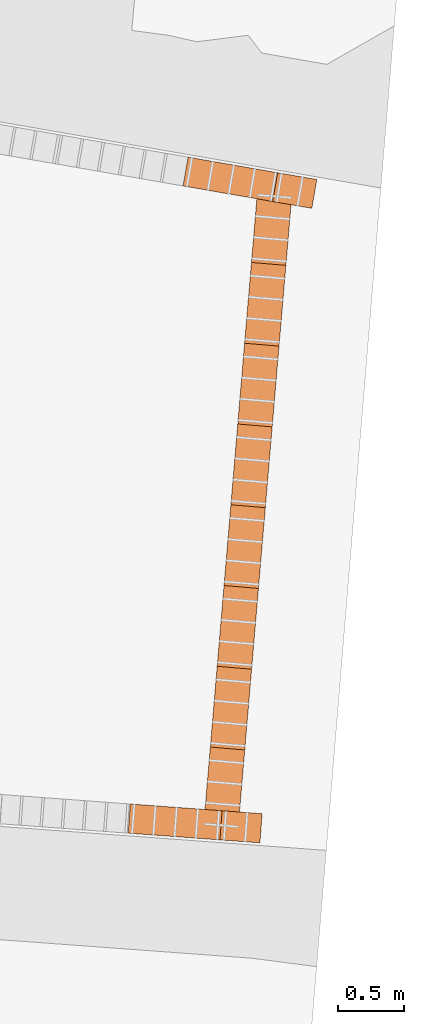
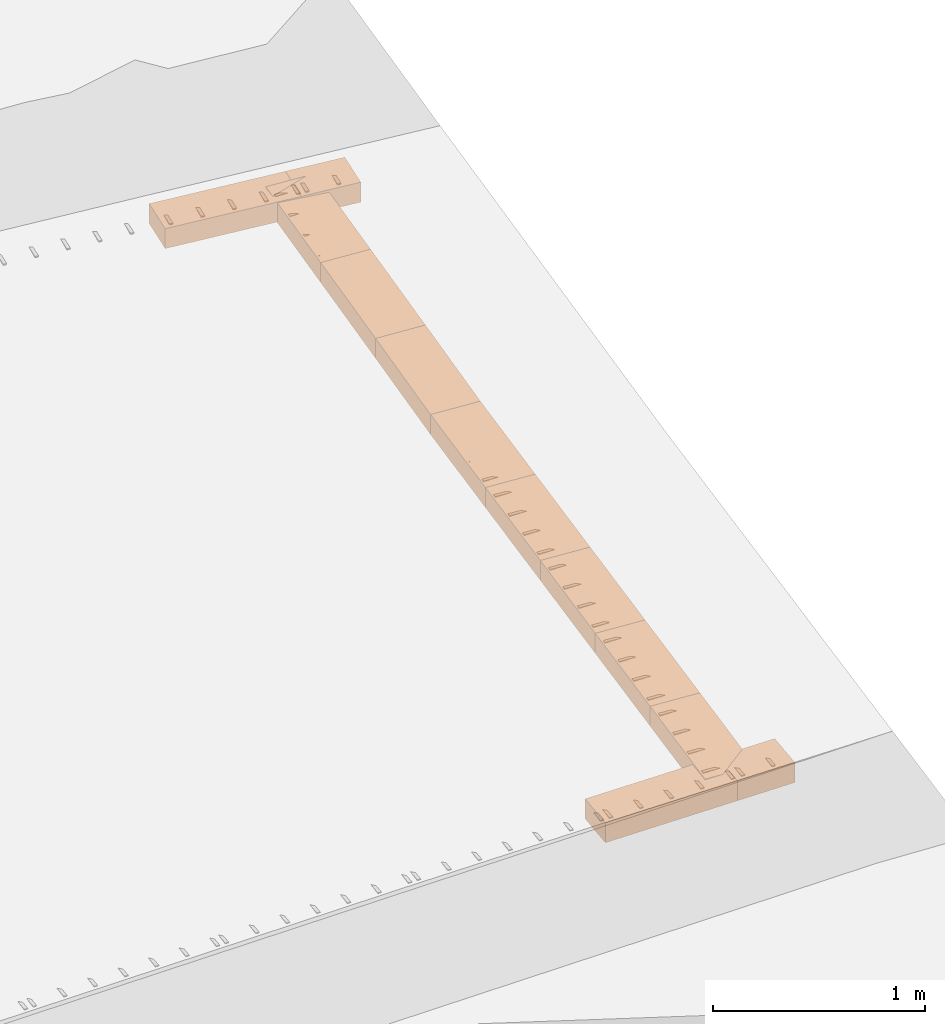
# Not in any storey, part 33 of 33: 12 proxies.
"""IFC4 model written with IfcOpenShell, lengths in metres."""

from ifc_helpers import new_model, si_unit, direction, frame, origin_with_axes, place, context, subcontext, project, spatial, polygons, material, element, save


model = new_model("IFC4")

# Units and contexts
model_context = context("Model", 3, precision=1e-05, world=origin_with_axes(), true_north=direction((0.0, 1.0)))
body_context = subcontext(model_context, "Body", "Model", "MODEL_VIEW")
ifc_project = project(units=[si_unit("LENGTHUNIT", "METRE"), si_unit("AREAUNIT", "SQUARE_METRE"), si_unit("VOLUMEUNIT", "CUBIC_METRE")], contexts=[model_context])

# Site
site_placement = place(None, origin_with_axes())
site = spatial("IfcSite", under=ifc_project, at=site_placement, Name="Lares · Rua das Mercês · artigo 4771")

# Proxies
ifc_material = material(Name="Brita drenante", Category="stone")
proxy_1_placement = place(site_placement, frame((0.0, 0.0, 0.0), z_axis=(0.0, 0.0, 1.0), x_axis=(1.0, -1.03767253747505e-17, 0.0)))
element("IfcBuildingElementProxy", 1, at=proxy_1_placement, inside=site, material=ifc_material, Name="Acesso · dreno lateral raso · leito drenante", ObjectType="Acesso · dreno lateral raso · leito drenante", PredefinedType="USERDEFINED", context=body_context, shape_type="Tessellation", body=[
    polygons([(81.7911042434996, 0.638094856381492, 15.9472141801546), (81.8072327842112, 0.857502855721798, 15.9472141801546), (82.497647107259, 0.806750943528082, 15.97844099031), (82.4815185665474, 0.587342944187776, 15.97844099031), (81.7911042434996, 0.638094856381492, 16.0622141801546), (81.8072327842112, 0.857502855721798, 16.0622141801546), (82.497647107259, 0.806750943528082, 16.09344099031), (82.4815185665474, 0.587342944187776, 16.09344099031)], [[[4, 3, 2, 1]], [[5, 6, 7, 8]], [[1, 2, 6, 5]], [[2, 3, 7, 6]], [[3, 4, 8, 7]], [[4, 1, 5, 8]]]),
])
proxy_2_placement = place(site_placement, frame((0.0, 0.0, 0.0), z_axis=(0.0, 0.0, 1.0), x_axis=(1.0, -1.03767253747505e-17, 0.0)))
element("IfcBuildingElementProxy", 2, at=proxy_2_placement, inside=site, material=ifc_material, Name="Acesso · dreno lateral raso · leito drenante", ObjectType="Acesso · dreno lateral raso · leito drenante", PredefinedType="USERDEFINED", context=body_context, shape_type="Tessellation", body=[
    polygons([(82.4815185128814, 0.587342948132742, 15.97844099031), (82.497647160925, 0.806750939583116, 15.97844099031), (82.7988218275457, 0.784611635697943, 15.9920628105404), (82.7826931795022, 0.565203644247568, 15.9920628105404), (82.4815185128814, 0.587342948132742, 16.09344099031), (82.497647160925, 0.806750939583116, 16.09344099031), (82.7988218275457, 0.784611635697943, 16.1070628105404), (82.7826931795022, 0.565203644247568, 16.1070628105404)], [[[4, 3, 2, 1]], [[5, 6, 7, 8]], [[1, 2, 6, 5]], [[2, 3, 7, 6]], [[3, 4, 8, 7]], [[4, 1, 5, 8]]]),
])
proxy_3_placement = place(site_placement, frame((0.0, 0.0, 0.0), z_axis=(0.0, 0.0, 1.0), x_axis=(1.0, -1.03767253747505e-17, 0.0)))
element("IfcBuildingElementProxy", 3, at=proxy_3_placement, inside=site, material=ifc_material, Name="Acesso · dreno lateral raso · leito drenante", ObjectType="Acesso · dreno lateral raso · leito drenante", PredefinedType="USERDEFINED", context=body_context, shape_type="Tessellation", body=[
    polygons([(82.2036088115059, 5.5071228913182, 16.2737932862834), (82.241255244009, 5.72387792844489, 16.2737932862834), (82.9159825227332, 5.60668999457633, 16.295060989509), (82.8783360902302, 5.38993495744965, 16.295060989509), (82.2036088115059, 5.5071228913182, 16.3887932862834), (82.241255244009, 5.72387792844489, 16.3887932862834), (82.9159825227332, 5.60668999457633, 16.410060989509), (82.8783360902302, 5.38993495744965, 16.410060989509)], [[[4, 3, 2, 1]], [[5, 6, 7, 8]], [[1, 2, 6, 5]], [[2, 3, 7, 6]], [[3, 4, 8, 7]], [[4, 1, 5, 8]]]),
])
proxy_4_placement = place(site_placement, frame((0.0, 0.0, 0.0), z_axis=(0.0, 0.0, 1.0), x_axis=(1.0, -1.03767253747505e-17, 0.0)))
element("IfcBuildingElementProxy", 4, at=proxy_4_placement, inside=site, material=ifc_material, Name="Acesso · dreno lateral raso · leito drenante", ObjectType="Acesso · dreno lateral raso · leito drenante", PredefinedType="USERDEFINED", context=body_context, shape_type="Tessellation", body=[
    polygons([(82.8783362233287, 5.38993493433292, 16.295060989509), (82.9159823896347, 5.60669001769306, 16.295060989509), (83.2103184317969, 5.55556953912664, 16.3043386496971), (83.1726722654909, 5.3388144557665, 16.3043386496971), (82.8783362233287, 5.38993493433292, 16.410060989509), (82.9159823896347, 5.60669001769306, 16.410060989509), (83.2103184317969, 5.55556953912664, 16.4193386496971), (83.1726722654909, 5.3388144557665, 16.4193386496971)], [[[4, 3, 2, 1]], [[5, 6, 7, 8]], [[1, 2, 6, 5]], [[2, 3, 7, 6]], [[3, 4, 8, 7]], [[4, 1, 5, 8]]]),
])
proxy_5_placement = place(site_placement, frame((0.0, 0.0, 0.0), z_axis=(0.0, 0.0, 1.0), x_axis=(1.0, -1.03767253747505e-17, 0.0)))
element("IfcBuildingElementProxy", 5, at=proxy_5_placement, inside=site, material=ifc_material, Name="Interceção · caleira rua · leito drenante", ObjectType="Interceção · caleira rua · leito drenante", PredefinedType="USERDEFINED", context=body_context, shape_type="Tessellation", body=[
    polygons([(82.6165793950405, 0.656158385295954, 15.9767944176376), (82.3575111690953, 0.678150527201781, 15.9767944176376), (82.4090926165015, 1.28578184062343, 16.0102646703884), (82.6681608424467, 1.2637896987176, 16.0102646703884), (82.6165793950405, 0.656158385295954, 16.0917944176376), (82.3575111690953, 0.678150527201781, 16.0917944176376), (82.4090926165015, 1.28578184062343, 16.1252646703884), (82.6681608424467, 1.2637896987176, 16.1252646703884)], [[[4, 3, 2, 1]], [[5, 6, 7, 8]], [[1, 2, 6, 5]], [[2, 3, 7, 6]], [[3, 4, 8, 7]], [[4, 1, 5, 8]]]),
])
proxy_6_placement = place(site_placement, frame((0.0, 0.0, 0.0), z_axis=(0.0, 0.0, 1.0), x_axis=(1.0, -1.03767253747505e-17, 0.0)))
element("IfcBuildingElementProxy", 6, at=proxy_6_placement, inside=site, material=ifc_material, Name="Interceção · caleira rua · leito drenante", ObjectType="Interceção · caleira rua · leito drenante", PredefinedType="USERDEFINED", context=body_context, shape_type="Tessellation", body=[
    polygons([(82.6681608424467, 1.2637896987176, 16.0102646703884), (82.4090926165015, 1.28578184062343, 16.0102646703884), (82.4606740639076, 1.89341315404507, 16.0437349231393), (82.7197422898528, 1.87142101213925, 16.0437349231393), (82.6681608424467, 1.2637896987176, 16.1252646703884), (82.4090926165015, 1.28578184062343, 16.1252646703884), (82.4606740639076, 1.89341315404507, 16.1587349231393), (82.7197422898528, 1.87142101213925, 16.1587349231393)], [[[4, 3, 2, 1]], [[5, 6, 7, 8]], [[1, 2, 6, 5]], [[2, 3, 7, 6]], [[3, 4, 8, 7]], [[4, 1, 5, 8]]]),
])
proxy_7_placement = place(site_placement, frame((0.0, 0.0, 0.0), z_axis=(0.0, 0.0, 1.0), x_axis=(1.0, -1.03767253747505e-17, 0.0)))
element("IfcBuildingElementProxy", 7, at=proxy_7_placement, inside=site, material=ifc_material, Name="Interceção · caleira rua · leito drenante", ObjectType="Interceção · caleira rua · leito drenante", PredefinedType="USERDEFINED", context=body_context, shape_type="Tessellation", body=[
    polygons([(82.7197422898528, 1.87142101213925, 16.0437349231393), (82.4606740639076, 1.89341315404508, 16.0437349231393), (82.5122555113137, 2.50104446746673, 16.0772051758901), (82.7713237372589, 2.4790523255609, 16.0772051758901), (82.7197422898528, 1.87142101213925, 16.1587349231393), (82.4606740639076, 1.89341315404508, 16.1587349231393), (82.5122555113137, 2.50104446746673, 16.1922051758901), (82.7713237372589, 2.4790523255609, 16.1922051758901)], [[[4, 3, 2, 1]], [[5, 6, 7, 8]], [[1, 2, 6, 5]], [[2, 3, 7, 6]], [[3, 4, 8, 7]], [[4, 1, 5, 8]]]),
])
proxy_8_placement = place(site_placement, frame((0.0, 0.0, 0.0), z_axis=(0.0, 0.0, 1.0), x_axis=(1.0, -1.03767253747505e-17, 0.0)))
element("IfcBuildingElementProxy", 8, at=proxy_8_placement, inside=site, material=ifc_material, Name="Interceção · caleira rua · leito drenante", ObjectType="Interceção · caleira rua · leito drenante", PredefinedType="USERDEFINED", context=body_context, shape_type="Tessellation", body=[
    polygons([(82.7713237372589, 2.4790523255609, 16.0772051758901), (82.5122555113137, 2.50104446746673, 16.0772051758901), (82.5638369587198, 3.10867578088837, 16.110675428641), (82.8229051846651, 3.08668363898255, 16.110675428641), (82.7713237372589, 2.4790523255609, 16.1922051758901), (82.5122555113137, 2.50104446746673, 16.1922051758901), (82.5638369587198, 3.10867578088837, 16.225675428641), (82.8229051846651, 3.08668363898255, 16.225675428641)], [[[4, 3, 2, 1]], [[5, 6, 7, 8]], [[1, 2, 6, 5]], [[2, 3, 7, 6]], [[3, 4, 8, 7]], [[4, 1, 5, 8]]]),
])
proxy_9_placement = place(site_placement, frame((0.0, 0.0, 0.0), z_axis=(0.0, 0.0, 1.0), x_axis=(1.0, -1.03767253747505e-17, 0.0)))
element("IfcBuildingElementProxy", 9, at=proxy_9_placement, inside=site, material=ifc_material, Name="Interceção · caleira rua · leito drenante", ObjectType="Interceção · caleira rua · leito drenante", PredefinedType="USERDEFINED", context=body_context, shape_type="Tessellation", body=[
    polygons([(82.8229051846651, 3.08668363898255, 16.110675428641), (82.5638369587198, 3.10867578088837, 16.110675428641), (82.615418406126, 3.71630709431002, 16.1447230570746), (82.8744866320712, 3.69431495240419, 16.1447230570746), (82.8229051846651, 3.08668363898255, 16.225675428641), (82.5638369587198, 3.10867578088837, 16.225675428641), (82.615418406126, 3.71630709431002, 16.2597230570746), (82.8744866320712, 3.69431495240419, 16.2597230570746)], [[[4, 3, 2, 1]], [[5, 6, 7, 8]], [[1, 2, 6, 5]], [[2, 3, 7, 6]], [[3, 4, 8, 7]], [[4, 1, 5, 8]]]),
])
proxy_10_placement = place(site_placement, frame((0.0, 0.0, 0.0), z_axis=(0.0, 0.0, 1.0), x_axis=(1.0, -1.03767253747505e-17, 0.0)))
element("IfcBuildingElementProxy", 10, at=proxy_10_placement, inside=site, material=ifc_material, Name="Interceção · caleira rua · leito drenante", ObjectType="Interceção · caleira rua · leito drenante", PredefinedType="USERDEFINED", context=body_context, shape_type="Tessellation", body=[
    polygons([(82.8744866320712, 3.69431495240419, 16.1447230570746), (82.615418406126, 3.71630709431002, 16.1447230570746), (82.6669998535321, 4.32393840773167, 16.1968991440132), (82.9260680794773, 4.30194626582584, 16.1968991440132), (82.8744866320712, 3.69431495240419, 16.2597230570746), (82.615418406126, 3.71630709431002, 16.2597230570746), (82.6669998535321, 4.32393840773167, 16.3118991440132), (82.9260680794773, 4.30194626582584, 16.3118991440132)], [[[4, 3, 2, 1]], [[5, 6, 7, 8]], [[1, 2, 6, 5]], [[2, 3, 7, 6]], [[3, 4, 8, 7]], [[4, 1, 5, 8]]]),
])
proxy_11_placement = place(site_placement, frame((0.0, 0.0, 0.0), z_axis=(0.0, 0.0, 1.0), x_axis=(1.0, -1.03767253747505e-17, 0.0)))
element("IfcBuildingElementProxy", 11, at=proxy_11_placement, inside=site, material=ifc_material, Name="Interceção · caleira rua · leito drenante", ObjectType="Interceção · caleira rua · leito drenante", PredefinedType="USERDEFINED", context=body_context, shape_type="Tessellation", body=[
    polygons([(82.9260680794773, 4.30194626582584, 16.1968991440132), (82.6669998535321, 4.32393840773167, 16.1968991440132), (82.7185813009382, 4.93156972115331, 16.2472177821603), (82.9776495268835, 4.90957757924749, 16.2472177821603), (82.9260680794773, 4.30194626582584, 16.3118991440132), (82.6669998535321, 4.32393840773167, 16.3118991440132), (82.7185813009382, 4.93156972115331, 16.3622177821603), (82.9776495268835, 4.90957757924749, 16.3622177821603)], [[[4, 3, 2, 1]], [[5, 6, 7, 8]], [[1, 2, 6, 5]], [[2, 3, 7, 6]], [[3, 4, 8, 7]], [[4, 1, 5, 8]]]),
])
proxy_12_placement = place(site_placement, frame((0.0, 0.0, 0.0), z_axis=(0.0, 0.0, 1.0), x_axis=(1.0, -1.03767253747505e-17, 0.0)))
element("IfcBuildingElementProxy", 12, at=proxy_12_placement, inside=site, material=ifc_material, Name="Interceção · caleira rua · leito drenante", ObjectType="Interceção · caleira rua · leito drenante", PredefinedType="USERDEFINED", context=body_context, shape_type="Tessellation", body=[
    polygons([(82.9776495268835, 4.90957757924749, 16.2472177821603), (82.7185813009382, 4.93156972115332, 16.2472177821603), (82.7701627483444, 5.53920103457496, 16.2975364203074), (83.0292309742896, 5.51720889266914, 16.2975364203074), (82.9776495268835, 4.90957757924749, 16.3622177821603), (82.7185813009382, 4.93156972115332, 16.3622177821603), (82.7701627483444, 5.53920103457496, 16.4125364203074), (83.0292309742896, 5.51720889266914, 16.4125364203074)], [[[4, 3, 2, 1]], [[5, 6, 7, 8]], [[1, 2, 6, 5]], [[2, 3, 7, 6]], [[3, 4, 8, 7]], [[4, 1, 5, 8]]]),
])

save(model, "model.ifc")
